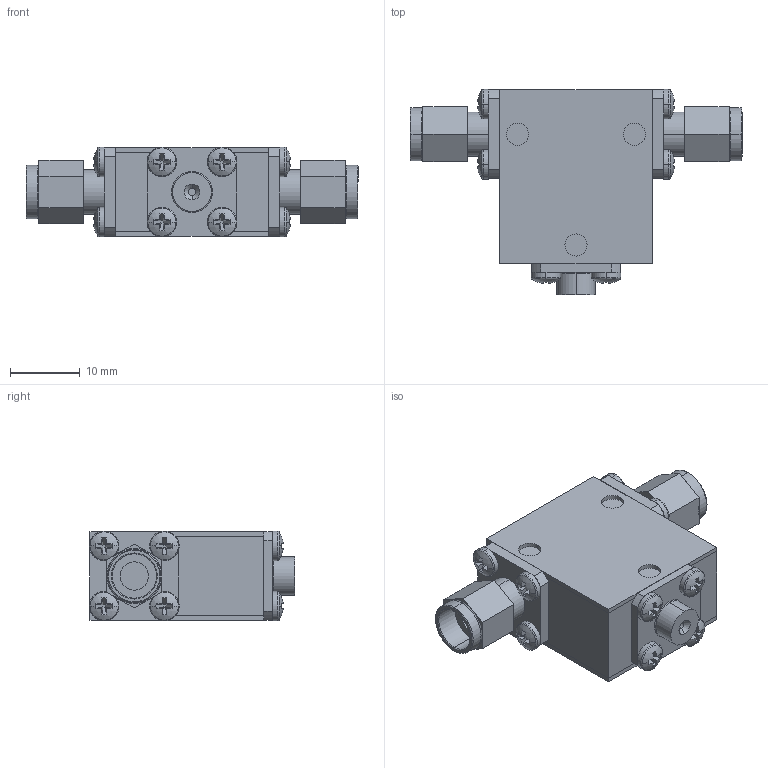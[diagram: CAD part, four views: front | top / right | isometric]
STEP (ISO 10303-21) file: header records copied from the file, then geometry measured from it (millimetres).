
FILE_DESCRIPTION (( 'STEP AP214' ), '1' );
FILE_NAME ('Package 4 Iso MM.step', '2021-12-01T21:00:50', ( '' ), ( '' ), 'SwSTEP 2.0', 'SolidWorks 2016', '' );
FILE_SCHEMA (( 'AUTOMOTIVE_DESIGN' ));
Length unit declared in the file: inch
Products named in the file (6): Package 4; pan cross head_ai_CR-PHMS 0.086-56x0.125x0.125-N; 030013-1A; Delta SMA-Male; Package 4 Iso MM; Package Size 4
Assembly tree (17 placements, depth 2):
  Package 4 Iso MM
    Package Size 4
    Package 4
    pan cross head_ai_CR-PHMS 0.086-56x0.125x0.125-N  x12
    Delta SMA-Male  x2
    030013-1A
Bounding box: 47.6 x 29.43 x 12.88 mm (x, y, z)
Volume: 8476.9 mm3; surface area: 7897.7 mm2
Topology: 17 solids, 17 shells, 430 faces, 980 edges, 604 vertices
Faces by surface type: plane 246, cylinder 118, torus 38, sphere 24, cone 4
Entity records: 4284 total; most frequent: DIRECTION 774, CARTESIAN_POINT 668, ORIENTED_EDGE 632, EDGE_CURVE 316, AXIS2_PLACEMENT_3D 308, VERTEX_POINT 202, EDGE_LOOP 168, CIRCLE 158
